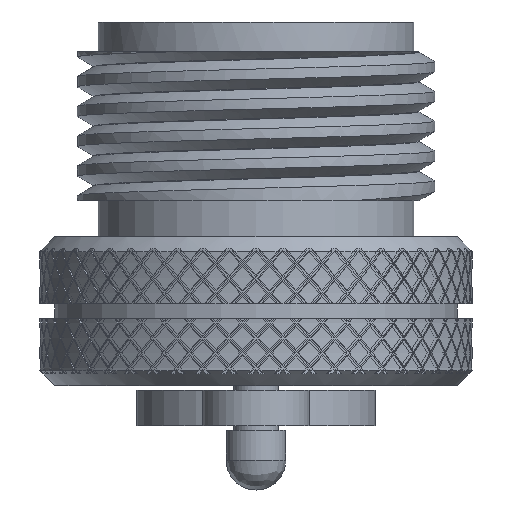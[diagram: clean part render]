
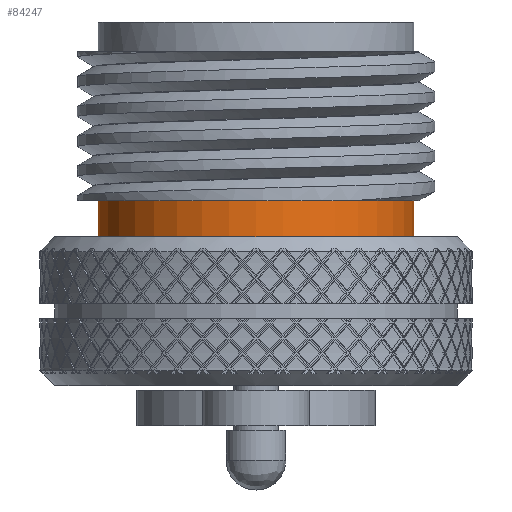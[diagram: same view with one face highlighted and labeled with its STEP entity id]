
A CAD part, left-side view. The second image highlights one B-rep face of the part: STEP entity #84247.
In plain terms, the highlighted cylindrical face has radius 5.3 mm (diameter 10.6 mm), a partial arc.
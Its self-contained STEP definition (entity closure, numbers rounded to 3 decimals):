
#1716 = AXIS2_PLACEMENT_3D ( 'NONE', #42979, #100070, #109514 ) ;
#13562 = DIRECTION ( 'NONE',  ( -1., 0., 0. ) ) ;
#15011 = CARTESIAN_POINT ( 'NONE',  ( 0., -5.3, -5.944 ) ) ;
#15730 = LINE ( 'NONE', #15011, #131528 ) ;
#15801 = LINE ( 'NONE', #72213, #140498 ) ;
#16327 = AXIS2_PLACEMENT_3D ( 'NONE', #117985, #116571, #40587 ) ;
#19018 = EDGE_CURVE ( 'NONE', #26938, #89755, #65161, .T. ) ;
#26716 = CARTESIAN_POINT ( 'NONE',  ( 0., -5.3, -7.2 ) ) ;
#26938 = VERTEX_POINT ( 'NONE', #26716 ) ;
#28642 = CARTESIAN_POINT ( 'NONE',  ( 0., -5.3, -6. ) ) ;
#32606 = CARTESIAN_POINT ( 'NONE',  ( 0., 0., -7.2 ) ) ;
#33729 = EDGE_CURVE ( 'NONE', #142455, #121910, #104098, .T. ) ;
#40587 = DIRECTION ( 'NONE',  ( -1., 0., 0. ) ) ;
#42979 = CARTESIAN_POINT ( 'NONE',  ( 0., 0., -5.944 ) ) ;
#59170 = DIRECTION ( 'NONE',  ( 0., 0., 1. ) ) ;
#60640 = AXIS2_PLACEMENT_3D ( 'NONE', #32606, #65865, #13562 ) ;
#61371 = DIRECTION ( 'NONE',  ( 0., 0., -1. ) ) ;
#64906 = EDGE_CURVE ( 'NONE', #26938, #142455, #15730, .T. ) ;
#65161 = CIRCLE ( 'NONE', #60640, 5.3 ) ;
#65865 = DIRECTION ( 'NONE',  ( 0., 0., -1. ) ) ;
#72213 = CARTESIAN_POINT ( 'NONE',  ( 0., 5.3, -5.944 ) ) ;
#74866 = ORIENTED_EDGE ( 'NONE', *, *, #78161, .T. ) ;
#78161 = EDGE_CURVE ( 'NONE', #121910, #89755, #15801, .T. ) ;
#84247 = ADVANCED_FACE ( 'NONE', ( #87816 ), #130504, .T. ) ;
#87456 = CARTESIAN_POINT ( 'NONE',  ( 0., 5.3, -6. ) ) ;
#87816 = FACE_OUTER_BOUND ( 'NONE', #96508, .T. ) ;
#89755 = VERTEX_POINT ( 'NONE', #100993 ) ;
#96508 = EDGE_LOOP ( 'NONE', ( #139174, #74866, #98059, #120562 ) ) ;
#98059 = ORIENTED_EDGE ( 'NONE', *, *, #19018, .F. ) ;
#100070 = DIRECTION ( 'NONE',  ( 0., 0., -1. ) ) ;
#100993 = CARTESIAN_POINT ( 'NONE',  ( 0., 5.3, -7.2 ) ) ;
#104098 = CIRCLE ( 'NONE', #16327, 5.3 ) ;
#109514 = DIRECTION ( 'NONE',  ( -1., 0., 0. ) ) ;
#116571 = DIRECTION ( 'NONE',  ( 0., 0., -1. ) ) ;
#117985 = CARTESIAN_POINT ( 'NONE',  ( 0., 0., -6. ) ) ;
#120562 = ORIENTED_EDGE ( 'NONE', *, *, #64906, .T. ) ;
#121910 = VERTEX_POINT ( 'NONE', #87456 ) ;
#130504 = CYLINDRICAL_SURFACE ( 'NONE', #1716, 5.3 ) ;
#131528 = VECTOR ( 'NONE', #59170, 1000. ) ;
#139174 = ORIENTED_EDGE ( 'NONE', *, *, #33729, .T. ) ;
#140498 = VECTOR ( 'NONE', #61371, 1000. ) ;
#142455 = VERTEX_POINT ( 'NONE', #28642 ) ;
